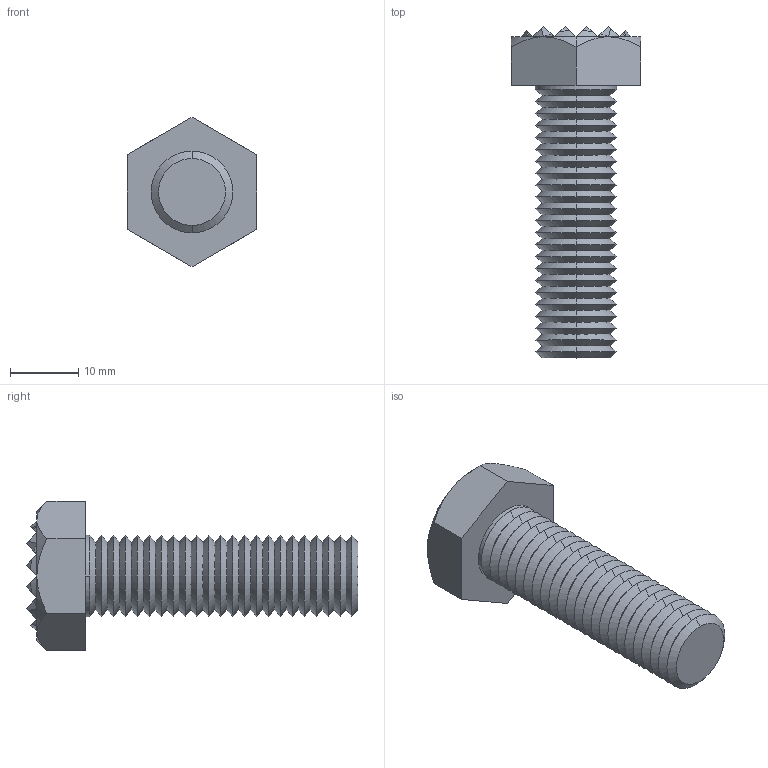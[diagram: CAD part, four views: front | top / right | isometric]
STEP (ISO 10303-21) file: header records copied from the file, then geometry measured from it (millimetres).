
FILE_DESCRIPTION (( 'STEP AP203' ), '1' );
FILE_NAME ('35400.W0010.step', '2017-07-03T07:21:53', ( 'User' ), ( '' ), 'SwSTEP 2.0', 'SolidWorks 2009', '' );
FILE_SCHEMA (( 'CONFIG_CONTROL_DESIGN' ));
Length unit declared in the file: millimetre
Products named in the file (1): 35400.W0010
Bounding box: 19 x 48.7 x 21.94 mm (x, y, z)
Volume: 6069.9 mm3; surface area: 3307.8 mm2
Topology: 1 solids, 1 shells, 232 faces, 428 edges, 200 vertices
Faces by surface type: cone 117, plane 113, cylinder 2
Entity records: 5523 total; most frequent: CARTESIAN_POINT 1088, DIRECTION 957, ORIENTED_EDGE 856, EDGE_CURVE 428, AXIS2_PLACEMENT_3D 356, VECTOR 245, LINE 245, EDGE_LOOP 234
